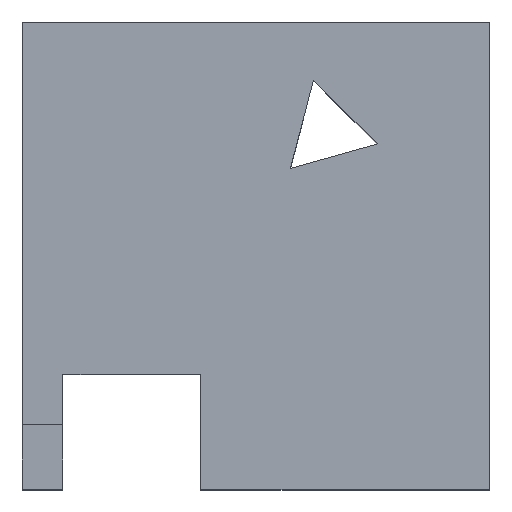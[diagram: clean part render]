
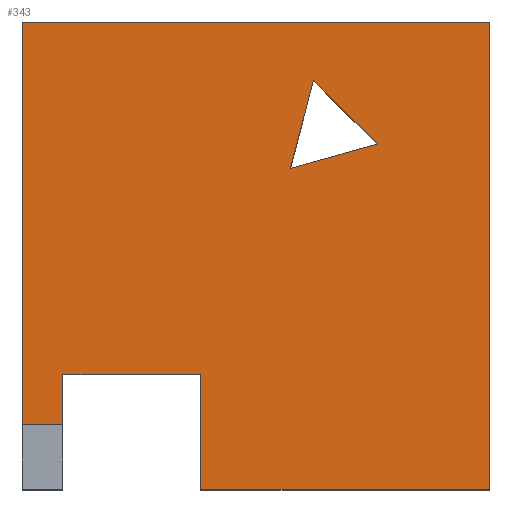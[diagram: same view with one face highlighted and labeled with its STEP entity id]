
A CAD part, top view. The second image highlights one B-rep face of the part: STEP entity #343.
In plain terms, the highlighted planar face has unit normal (0, 0, 1).
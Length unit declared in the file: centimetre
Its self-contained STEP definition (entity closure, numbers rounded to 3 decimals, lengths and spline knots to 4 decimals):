
#19 = CARTESIAN_POINT ( 'NONE',  ( 573.4383, 686.5568, 1000. ) ) ;
#49 = VECTOR ( 'NONE', #577, 100. ) ;
#62 = VERTEX_POINT ( 'NONE', #971 ) ;
#66 = ORIENTED_EDGE ( 'NONE', *, *, #1247, .T. ) ;
#93 = CARTESIAN_POINT ( 'NONE',  ( 0., 0., 1000. ) ) ;
#102 = LINE ( 'NONE', #803, #794 ) ;
#110 = EDGE_CURVE ( 'NONE', #985, #423, #658, .T. ) ;
#115 = CARTESIAN_POINT ( 'NONE',  ( 622.8673, 875.8232, 1000. ) ) ;
#133 = LINE ( 'NONE', #239, #977 ) ;
#160 = CARTESIAN_POINT ( 'NONE',  ( 381.7786, 0., 1000. ) ) ;
#182 = CARTESIAN_POINT ( 'NONE',  ( 759.665, 739.0256, 1000. ) ) ;
#194 = VERTEX_POINT ( 'NONE', #579 ) ;
#226 = EDGE_CURVE ( 'NONE', #62, #942, #770, .T. ) ;
#231 = CARTESIAN_POINT ( 'NONE',  ( 622.8673, 875.8232, 1000. ) ) ;
#238 = ORIENTED_EDGE ( 'NONE', *, *, #289, .F. ) ;
#239 = CARTESIAN_POINT ( 'NONE',  ( 86.6523, 0., 1000. ) ) ;
#246 = VERTEX_POINT ( 'NONE', #1306 ) ;
#253 = VECTOR ( 'NONE', #1113, 100. ) ;
#263 = EDGE_CURVE ( 'NONE', #1263, #942, #1079, .T. ) ;
#271 = LINE ( 'NONE', #583, #499 ) ;
#282 = LINE ( 'NONE', #182, #49 ) ;
#289 = EDGE_CURVE ( 'NONE', #982, #835, #271, .T. ) ;
#295 = EDGE_CURVE ( 'NONE', #194, #985, #572, .T. ) ;
#299 = FACE_OUTER_BOUND ( 'NONE', #846, .T. ) ;
#302 = DIRECTION ( 'NONE',  ( 0., 1., 0. ) ) ;
#324 = CARTESIAN_POINT ( 'NONE',  ( 381.7786, 246.0506, 1000. ) ) ;
#334 = VECTOR ( 'NONE', #885, 100. ) ;
#343 = ADVANCED_FACE ( 'NONE', ( #299, #592 ), #1019, .T. ) ;
#353 = ORIENTED_EDGE ( 'NONE', *, *, #1287, .T. ) ;
#363 = DIRECTION ( 'NONE',  ( 0., -1., 0. ) ) ;
#383 = CARTESIAN_POINT ( 'NONE',  ( 0., 1000., 1000. ) ) ;
#397 = EDGE_CURVE ( 'NONE', #246, #1263, #1213, .T. ) ;
#423 = VERTEX_POINT ( 'NONE', #115 ) ;
#459 = ORIENTED_EDGE ( 'NONE', *, *, #263, .T. ) ;
#467 = DIRECTION ( 'NONE',  ( -0.963, -0.271, 0. ) ) ;
#475 = CARTESIAN_POINT ( 'NONE',  ( 303.517, 138.3284, 1000. ) ) ;
#499 = VECTOR ( 'NONE', #668, 100. ) ;
#508 = CARTESIAN_POINT ( 'NONE',  ( 1000., 0., 1000. ) ) ;
#523 = DIRECTION ( 'NONE',  ( 0., -1., 0. ) ) ;
#565 = VECTOR ( 'NONE', #1176, 100. ) ;
#569 = AXIS2_PLACEMENT_3D ( 'NONE', #93, #1320, #1121 ) ;
#572 = LINE ( 'NONE', #986, #729 ) ;
#577 = DIRECTION ( 'NONE',  ( 0.707, -0.707, 0. ) ) ;
#579 = CARTESIAN_POINT ( 'NONE',  ( 759.665, 739.0256, 1000. ) ) ;
#583 = CARTESIAN_POINT ( 'NONE',  ( 86.6523, 246.0506, 1000. ) ) ;
#592 = FACE_BOUND ( 'NONE', #594, .T. ) ;
#594 = EDGE_LOOP ( 'NONE', ( #1142, #1029, #1124 ) ) ;
#596 = DIRECTION ( 'NONE',  ( -1., 0., 0. ) ) ;
#620 = CARTESIAN_POINT ( 'NONE',  ( 0., 138.3284, 1000. ) ) ;
#627 = VECTOR ( 'NONE', #596, 100. ) ;
#658 = LINE ( 'NONE', #231, #565 ) ;
#666 = EDGE_CURVE ( 'NONE', #423, #194, #282, .T. ) ;
#668 = DIRECTION ( 'NONE',  ( -1., 0., 0. ) ) ;
#678 = CARTESIAN_POINT ( 'NONE',  ( 0., 1000., 1000. ) ) ;
#724 = EDGE_CURVE ( 'NONE', #1156, #982, #102, .T. ) ;
#729 = VECTOR ( 'NONE', #467, 100. ) ;
#737 = ORIENTED_EDGE ( 'NONE', *, *, #397, .T. ) ;
#741 = VERTEX_POINT ( 'NONE', #508 ) ;
#769 = ORIENTED_EDGE ( 'NONE', *, *, #989, .F. ) ;
#770 = LINE ( 'NONE', #475, #910 ) ;
#794 = VECTOR ( 'NONE', #302, 100. ) ;
#803 = CARTESIAN_POINT ( 'NONE',  ( 381.7786, 0., 1000. ) ) ;
#821 = ORIENTED_EDGE ( 'NONE', *, *, #724, .F. ) ;
#835 = VERTEX_POINT ( 'NONE', #1215 ) ;
#846 = EDGE_LOOP ( 'NONE', ( #1126, #769, #238, #821, #353, #66, #737, #459 ) ) ;
#872 = DIRECTION ( 'NONE',  ( -1., 0., 0. ) ) ;
#885 = DIRECTION ( 'NONE',  ( 0., 1., 0. ) ) ;
#910 = VECTOR ( 'NONE', #872, 100. ) ;
#918 = CARTESIAN_POINT ( 'NONE',  ( 0., 1000., 1000. ) ) ;
#942 = VERTEX_POINT ( 'NONE', #620 ) ;
#971 = CARTESIAN_POINT ( 'NONE',  ( 86.6523, 138.3284, 1000. ) ) ;
#977 = VECTOR ( 'NONE', #523, 100. ) ;
#982 = VERTEX_POINT ( 'NONE', #324 ) ;
#985 = VERTEX_POINT ( 'NONE', #19 ) ;
#986 = CARTESIAN_POINT ( 'NONE',  ( 573.4383, 686.5568, 1000. ) ) ;
#989 = EDGE_CURVE ( 'NONE', #835, #62, #133, .T. ) ;
#997 = CARTESIAN_POINT ( 'NONE',  ( 1000., 1000., 1000. ) ) ;
#1019 = PLANE ( 'NONE',  #569 ) ;
#1029 = ORIENTED_EDGE ( 'NONE', *, *, #110, .T. ) ;
#1079 = LINE ( 'NONE', #678, #1083 ) ;
#1083 = VECTOR ( 'NONE', #363, 100. ) ;
#1099 = CARTESIAN_POINT ( 'NONE',  ( 0., 0., 1000. ) ) ;
#1113 = DIRECTION ( 'NONE',  ( 1., 0., 0. ) ) ;
#1121 = DIRECTION ( 'NONE',  ( 1., 0., 0. ) ) ;
#1124 = ORIENTED_EDGE ( 'NONE', *, *, #666, .T. ) ;
#1126 = ORIENTED_EDGE ( 'NONE', *, *, #226, .F. ) ;
#1142 = ORIENTED_EDGE ( 'NONE', *, *, #295, .T. ) ;
#1156 = VERTEX_POINT ( 'NONE', #160 ) ;
#1176 = DIRECTION ( 'NONE',  ( 0.253, 0.968, 0. ) ) ;
#1213 = LINE ( 'NONE', #918, #627 ) ;
#1215 = CARTESIAN_POINT ( 'NONE',  ( 86.6523, 246.0506, 1000. ) ) ;
#1224 = LINE ( 'NONE', #1099, #253 ) ;
#1247 = EDGE_CURVE ( 'NONE', #741, #246, #1305, .T. ) ;
#1263 = VERTEX_POINT ( 'NONE', #383 ) ;
#1287 = EDGE_CURVE ( 'NONE', #1156, #741, #1224, .T. ) ;
#1305 = LINE ( 'NONE', #997, #334 ) ;
#1306 = CARTESIAN_POINT ( 'NONE',  ( 1000., 1000., 1000. ) ) ;
#1320 = DIRECTION ( 'NONE',  ( 0., 0., 1. ) ) ;
